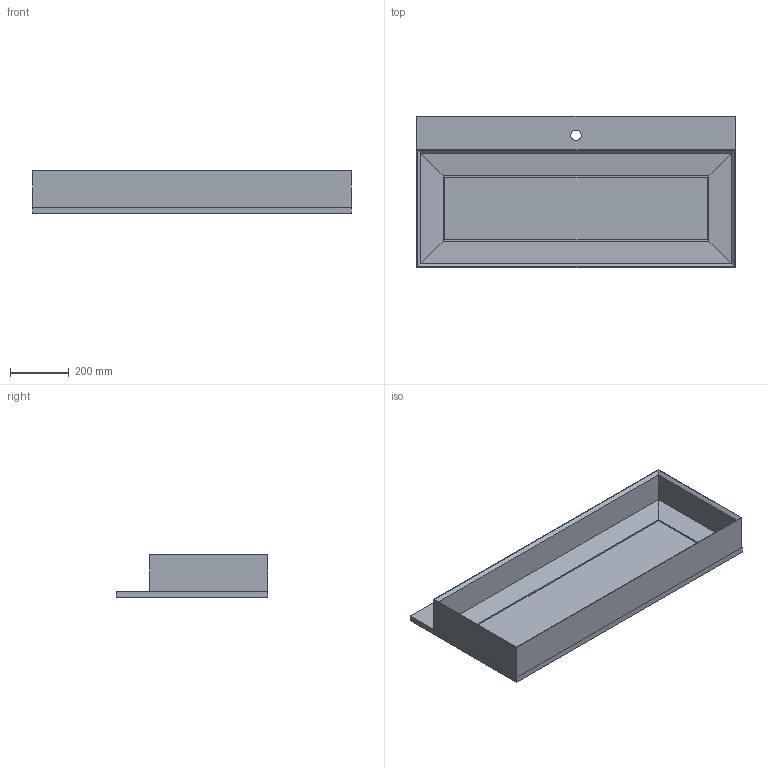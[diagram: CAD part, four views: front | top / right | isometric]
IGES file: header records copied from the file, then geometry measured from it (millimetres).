
Start section: Data from Parasolid IGES Translator 19.0.9, Copyright(c) 2006 Siemens PL M Software. All Rights Reserved.
Global section: file name: noorth-top-H 2 D 51,3 W 108_4651.igs; native system: By Siemens PLM Incorporated; preprocessor: XPlus GENERIC/IGES 19.0.9; author: Noname; organization: Noname; date: 20200603.115554; units: metre
Bounding box: 1080 x 513 x 145 mm (x, y, z)
Volume: 18215808.7 mm3; surface area: 2719776.4 mm2
Topology: 2 solids, 2 shells, 40 faces, 99 edges, 62 vertices
Faces by surface type: plane 39, cylinder 1
Full cylindrical faces by diameter (mm): 34.9 x1
